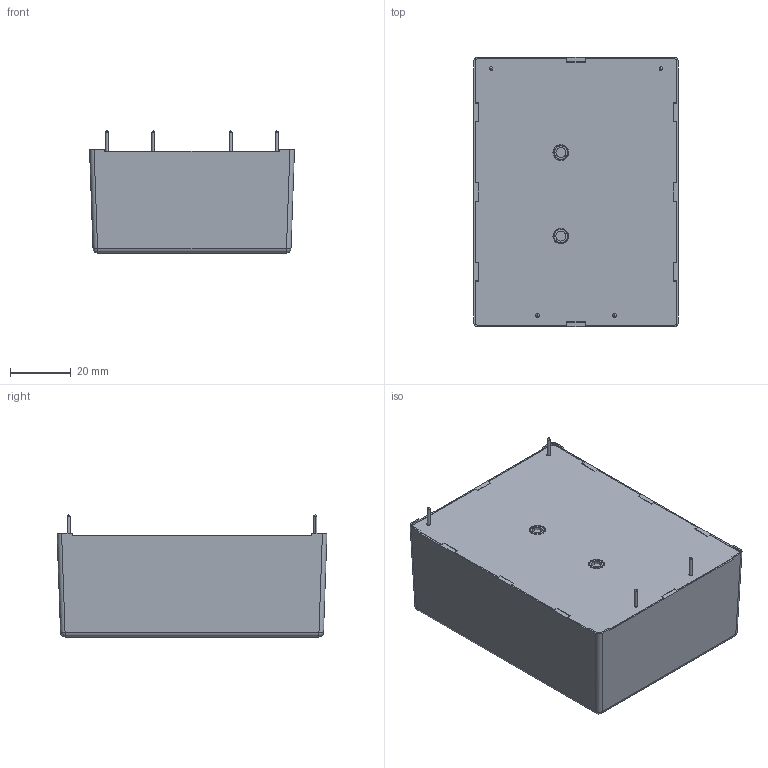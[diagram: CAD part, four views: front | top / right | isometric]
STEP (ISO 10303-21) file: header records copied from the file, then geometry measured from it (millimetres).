
FILE_DESCRIPTION (( 'STEP AP203' ), '1' );
FILE_NAME ('TMP 60.STEP', '2021-08-03T09:59:51', ( '' ), ( '' ), 'SwSTEP 2.0', 'SolidWorks 2019', '' );
FILE_SCHEMA (( 'CONFIG_CONTROL_DESIGN' ));
Length unit declared in the file: millimetre
Products named in the file (1): TMP 60
Bounding box: 67.5 x 88.9 x 40.2 mm (x, y, z)
Surface area: 28137.2 mm2 (no closed solid volume)
Topology: 0 solids, 8 shells, 130 faces, 618 edges, 484 vertices
Faces by surface type: plane 78, cylinder 40, bspline 12
Entity records: 6348 total; most frequent: CARTESIAN_POINT 1493, DIRECTION 946, ORIENTED_EDGE 876, EDGE_CURVE 610, VECTOR 484, VERTEX_POINT 484, LINE 484, AXIS2_PLACEMENT_3D 231
